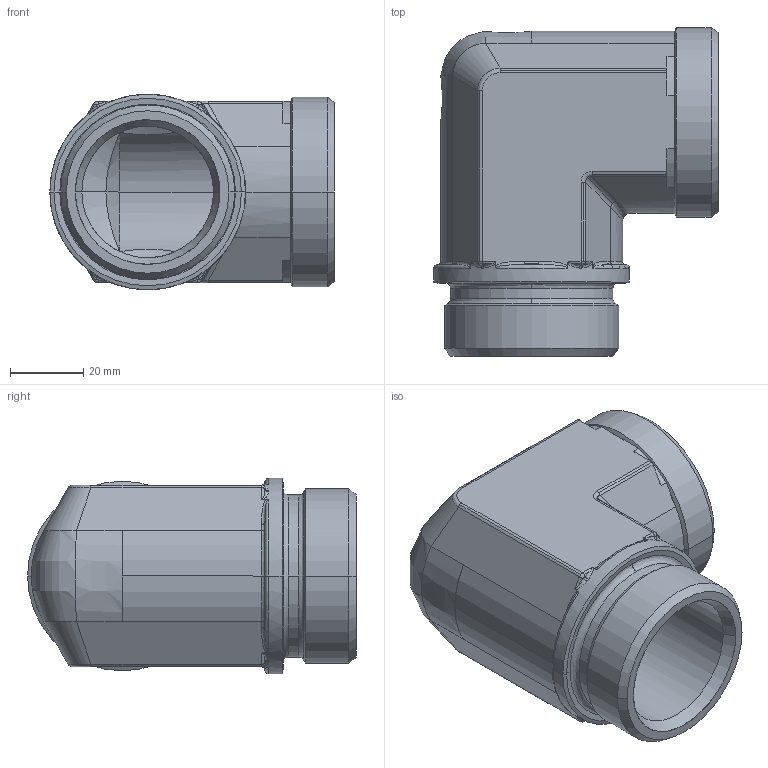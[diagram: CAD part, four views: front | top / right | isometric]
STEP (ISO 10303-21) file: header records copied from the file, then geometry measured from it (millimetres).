
FILE_DESCRIPTION((''),'2;1');
FILE_NAME('102313.stp','2007-10-31T10:25:51',(''),(''),'AutoCAD STEP 2000i','AutoCAD 2000i',', , ');
FILE_SCHEMA(('CONFIG_CONTROL_DESIGN'));
Length unit declared in the file: millimetre
Products named in the file (2): 102313.0; 3090#0
Assembly tree (1 placements, depth 2):
  102313.0
    3090#0
Bounding box: 77.75 x 89.91 x 53.5 mm (x, y, z)
Volume: 110184.5 mm3; surface area: 33803.7 mm2
Topology: 1 solids, 1 shells, 183 faces, 450 edges, 266 vertices
Faces by surface type: cylinder 78, bspline 46, plane 29, cone 24, torus 6
Entity records: 9706 total; most frequent: CARTESIAN_POINT 5464, ORIENTED_EDGE 892, DIRECTION 859, EDGE_CURVE 446, AXIS2_PLACEMENT_3D 357, VERTEX_POINT 266, CIRCLE 200, EDGE_LOOP 186
